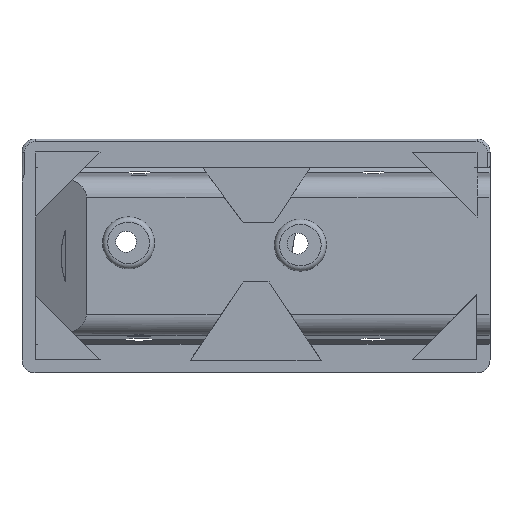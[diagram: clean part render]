
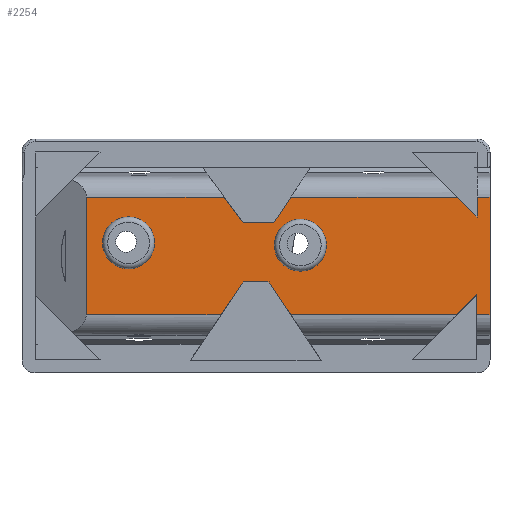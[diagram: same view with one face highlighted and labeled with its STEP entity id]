
A CAD part, front view. The second image highlights one B-rep face of the part: STEP entity #2254.
In plain terms, the highlighted planar face has unit normal (0, -1, 0).
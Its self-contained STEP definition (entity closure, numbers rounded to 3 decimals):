
#43=FACE_BOUND('',#833,.T.);
#44=FACE_BOUND('',#834,.T.);
#134=PLANE('',#2472);
#181=LINE('',#3416,#394);
#232=LINE('',#3732,#445);
#270=LINE('',#3823,#483);
#276=LINE('',#3835,#489);
#279=LINE('',#3844,#492);
#283=LINE('',#3852,#496);
#290=LINE('',#3866,#503);
#298=LINE('',#3885,#511);
#304=LINE('',#3900,#517);
#310=LINE('',#3912,#523);
#315=LINE('',#3922,#528);
#319=LINE('',#3932,#532);
#324=LINE('',#3944,#537);
#327=LINE('',#3949,#540);
#329=LINE('',#3953,#542);
#335=LINE('',#3966,#548);
#336=LINE('',#3968,#549);
#337=LINE('',#3970,#550);
#338=LINE('',#3971,#551);
#394=VECTOR('',#2688,10.);
#445=VECTOR('',#2829,10.);
#483=VECTOR('',#2919,10.);
#489=VECTOR('',#2929,10.);
#492=VECTOR('',#2938,10.);
#496=VECTOR('',#2946,10.);
#503=VECTOR('',#2961,10.);
#511=VECTOR('',#2981,10.);
#517=VECTOR('',#2997,10.);
#523=VECTOR('',#3007,10.);
#528=VECTOR('',#3016,10.);
#532=VECTOR('',#3024,10.);
#537=VECTOR('',#3035,10.);
#540=VECTOR('',#3040,10.);
#542=VECTOR('',#3046,10.);
#548=VECTOR('',#3062,10.);
#549=VECTOR('',#3065,10.);
#550=VECTOR('',#3068,10.);
#551=VECTOR('',#3069,10.);
#696=FACE_OUTER_BOUND('',#832,.T.);
#832=EDGE_LOOP('',(#2019,#2020,#2021,#2022,#2023,#2024,#2025,#2026,#2027,
#2028,#2029,#2030,#2031,#2032,#2033,#2034,#2035,#2036,#2037));
#833=EDGE_LOOP('',(#2038));
#834=EDGE_LOOP('',(#2039));
#902=CIRCLE('',#2373,10.);
#908=CIRCLE('',#2382,10.);
#1015=VERTEX_POINT('',#3413);
#1016=VERTEX_POINT('',#3415);
#1023=VERTEX_POINT('',#3443);
#1028=VERTEX_POINT('',#3458);
#1084=VERTEX_POINT('',#3729);
#1085=VERTEX_POINT('',#3731);
#1111=VERTEX_POINT('',#3820);
#1112=VERTEX_POINT('',#3822);
#1115=VERTEX_POINT('',#3829);
#1118=VERTEX_POINT('',#3842);
#1119=VERTEX_POINT('',#3843);
#1124=VERTEX_POINT('',#3865);
#1129=VERTEX_POINT('',#3884);
#1132=VERTEX_POINT('',#3897);
#1133=VERTEX_POINT('',#3899);
#1137=VERTEX_POINT('',#3911);
#1140=VERTEX_POINT('',#3918);
#1143=VERTEX_POINT('',#3929);
#1144=VERTEX_POINT('',#3931);
#1148=VERTEX_POINT('',#3943);
#1151=VERTEX_POINT('',#3964);
#1250=EDGE_CURVE('',#1016,#1015,#181,.T.);
#1262=EDGE_CURVE('',#1023,#1023,#902,.T.);
#1269=EDGE_CURVE('',#1028,#1028,#908,.T.);
#1335=EDGE_CURVE('',#1085,#1084,#232,.T.);
#1381=EDGE_CURVE('',#1112,#1111,#270,.T.);
#1388=EDGE_CURVE('',#1115,#1112,#276,.T.);
#1391=EDGE_CURVE('',#1118,#1119,#279,.T.);
#1396=EDGE_CURVE('',#1084,#1118,#283,.T.);
#1403=EDGE_CURVE('',#1115,#1124,#290,.T.);
#1413=EDGE_CURVE('',#1129,#1085,#298,.T.);
#1421=EDGE_CURVE('',#1133,#1132,#304,.T.);
#1427=EDGE_CURVE('',#1137,#1133,#310,.T.);
#1433=EDGE_CURVE('',#1140,#1137,#315,.T.);
#1437=EDGE_CURVE('',#1144,#1143,#319,.T.);
#1443=EDGE_CURVE('',#1148,#1129,#324,.T.);
#1446=EDGE_CURVE('',#1143,#1148,#327,.T.);
#1448=EDGE_CURVE('',#1016,#1132,#329,.T.);
#1455=EDGE_CURVE('',#1119,#1151,#335,.T.);
#1456=EDGE_CURVE('',#1015,#1144,#336,.T.);
#1457=EDGE_CURVE('',#1140,#1111,#337,.T.);
#1458=EDGE_CURVE('',#1151,#1124,#338,.T.);
#2019=ORIENTED_EDGE('',*,*,#1381,.T.);
#2020=ORIENTED_EDGE('',*,*,#1457,.F.);
#2021=ORIENTED_EDGE('',*,*,#1433,.T.);
#2022=ORIENTED_EDGE('',*,*,#1427,.T.);
#2023=ORIENTED_EDGE('',*,*,#1421,.T.);
#2024=ORIENTED_EDGE('',*,*,#1448,.F.);
#2025=ORIENTED_EDGE('',*,*,#1250,.T.);
#2026=ORIENTED_EDGE('',*,*,#1456,.T.);
#2027=ORIENTED_EDGE('',*,*,#1437,.T.);
#2028=ORIENTED_EDGE('',*,*,#1446,.T.);
#2029=ORIENTED_EDGE('',*,*,#1443,.T.);
#2030=ORIENTED_EDGE('',*,*,#1413,.T.);
#2031=ORIENTED_EDGE('',*,*,#1335,.T.);
#2032=ORIENTED_EDGE('',*,*,#1396,.T.);
#2033=ORIENTED_EDGE('',*,*,#1391,.T.);
#2034=ORIENTED_EDGE('',*,*,#1455,.T.);
#2035=ORIENTED_EDGE('',*,*,#1458,.T.);
#2036=ORIENTED_EDGE('',*,*,#1403,.F.);
#2037=ORIENTED_EDGE('',*,*,#1388,.T.);
#2038=ORIENTED_EDGE('',*,*,#1269,.T.);
#2039=ORIENTED_EDGE('',*,*,#1262,.T.);
#2254=ADVANCED_FACE('',(#696,#43,#44),#134,.F.);
#2373=AXIS2_PLACEMENT_3D('',#3445,#2716,#2717);
#2382=AXIS2_PLACEMENT_3D('',#3460,#2735,#2736);
#2472=AXIS2_PLACEMENT_3D('',#3969,#3066,#3067);
#2688=DIRECTION('',(0.,0.,-1.));
#2716=DIRECTION('center_axis',(0.,1.,0.));
#2717=DIRECTION('ref_axis',(1.,0.,0.));
#2735=DIRECTION('center_axis',(0.,1.,0.));
#2736=DIRECTION('ref_axis',(1.,0.,0.));
#2829=DIRECTION('',(0.703,0.,0.711));
#2919=DIRECTION('',(-0.707,0.,0.707));
#2929=DIRECTION('',(0.,0.,-1.));
#2938=DIRECTION('',(0.,0.,-1.));
#2946=DIRECTION('',(0.,0.,-1.));
#2961=DIRECTION('',(1.,0.,0.));
#2981=DIRECTION('',(1.,0.,0.));
#2997=DIRECTION('',(-0.593,0.,0.805));
#3007=DIRECTION('',(-1.,0.,0.));
#3016=DIRECTION('',(-0.555,0.,-0.832));
#3024=DIRECTION('',(0.558,0.,0.83));
#3035=DIRECTION('',(0.555,0.,-0.832));
#3040=DIRECTION('',(1.,0.,0.));
#3046=DIRECTION('',(1.,0.,0.));
#3062=DIRECTION('',(1.,0.,0.));
#3065=DIRECTION('',(1.,0.,0.));
#3066=DIRECTION('center_axis',(0.,1.,0.));
#3067=DIRECTION('ref_axis',(1.,0.,0.));
#3068=DIRECTION('',(1.,0.,0.));
#3069=DIRECTION('',(0.,0.,1.));
#3413=CARTESIAN_POINT('',(-65.244,0.,-22.546));
#3415=CARTESIAN_POINT('',(-65.244,0.,22.647));
#3416=CARTESIAN_POINT('',(-65.244,0.,0.));
#3443=CARTESIAN_POINT('',(-59.031,0.,5.042));
#3445=CARTESIAN_POINT('Origin',(-49.031,0.,
5.042));
#3458=CARTESIAN_POINT('',(7.073,0.,4.182));
#3460=CARTESIAN_POINT('Origin',(17.073,0.,4.182));
#3729=CARTESIAN_POINT('',(85.,0.,-14.701));
#3731=CARTESIAN_POINT('',(77.247,0.,-22.546));
#3732=CARTESIAN_POINT('',(55.178,0.,-44.88));
#3820=CARTESIAN_POINT('',(77.353,0.,22.647));
#3822=CARTESIAN_POINT('',(85.,0.,15.));
#3823=CARTESIAN_POINT('',(67.5,0.,32.5));
#3829=CARTESIAN_POINT('',(85.,0.,22.647));
#3835=CARTESIAN_POINT('',(85.,0.,16.958));
#3842=CARTESIAN_POINT('',(85.,0.,-15.));
#3843=CARTESIAN_POINT('',(85.,0.,-22.546));
#3844=CARTESIAN_POINT('',(85.,0.,-7.5));
#3852=CARTESIAN_POINT('',(85.,0.,-7.35));
#3865=CARTESIAN_POINT('',(90.,0.,22.647));
#3866=CARTESIAN_POINT('',(90.,0.,22.647));
#3884=CARTESIAN_POINT('',(13.364,0.,-22.546));
#3885=CARTESIAN_POINT('',(90.,0.,-22.546));
#3897=CARTESIAN_POINT('',(-12.212,0.,22.647));
#3899=CARTESIAN_POINT('',(-5.,0.,12.861));
#3900=CARTESIAN_POINT('',(-1.049,0.,7.5));
#3911=CARTESIAN_POINT('',(6.907,0.,12.861));
#3912=CARTESIAN_POINT('',(3.454,0.,12.861));
#3918=CARTESIAN_POINT('',(13.432,0.,22.647));
#3922=CARTESIAN_POINT('',(9.923,0.,17.385));
#3929=CARTESIAN_POINT('',(-5.,0.,-10.));
#3931=CARTESIAN_POINT('',(-13.432,0.,-22.546));
#3932=CARTESIAN_POINT('',(-12.012,0.,-20.434));
#3943=CARTESIAN_POINT('',(5.,0.,-10.));
#3944=CARTESIAN_POINT('',(1.923,0.,-5.385));
#3949=CARTESIAN_POINT('',(-2.5,0.,-10.));
#3953=CARTESIAN_POINT('',(90.,0.,22.647));
#3964=CARTESIAN_POINT('',(90.,0.,-22.546));
#3966=CARTESIAN_POINT('',(90.,0.,-22.546));
#3968=CARTESIAN_POINT('',(90.,0.,-22.546));
#3969=CARTESIAN_POINT('Origin',(0.,0.,0.));
#3970=CARTESIAN_POINT('',(90.,0.,22.647));
#3971=CARTESIAN_POINT('',(90.,0.,-45.));
